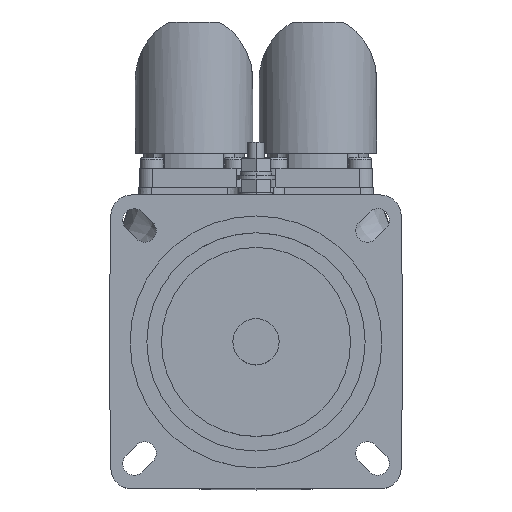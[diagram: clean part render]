
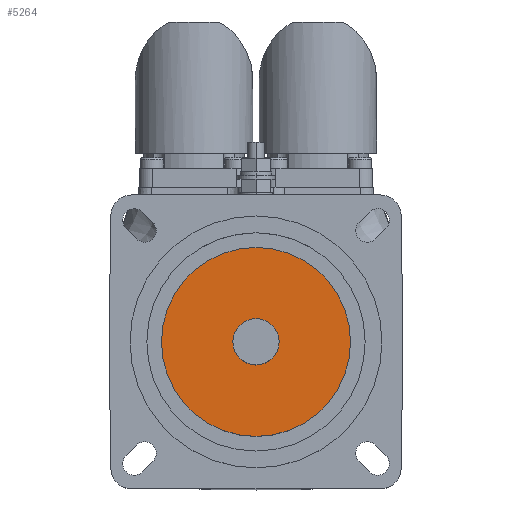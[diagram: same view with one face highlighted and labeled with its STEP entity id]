
A CAD part, top view. The second image highlights one B-rep face of the part: STEP entity #5264.
In plain terms, the highlighted planar face has unit normal (0, 0, 1).
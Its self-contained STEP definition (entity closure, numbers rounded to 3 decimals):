
#2038 = CARTESIAN_POINT ( 'NONE',  ( 0., 0., 7.5 ) ) ;
#2047 = DIRECTION ( 'NONE',  ( 0., 0., 1. ) ) ;
#2048 = DIRECTION ( 'NONE',  ( 1., 0., 0. ) ) ;
#2411 = CARTESIAN_POINT ( 'NONE',  ( 0., 0., 7.5 ) ) ;
#2413 = DIRECTION ( 'NONE',  ( 0., 0., 1. ) ) ;
#2414 = DIRECTION ( 'NONE',  ( 1., 0., 0. ) ) ;
#5216 = ORIENTED_EDGE ( 'NONE', *, *, #10523, .F. ) ;
#5218 = ORIENTED_EDGE ( 'NONE', *, *, #10435, .F. ) ;
#5219 = ORIENTED_EDGE ( 'NONE', *, *, #10439, .T. ) ;
#5221 = ORIENTED_EDGE ( 'NONE', *, *, #10657, .T. ) ;
#5264 = ADVANCED_FACE ( 'NONE', ( #6816, #6812 ), #7670, .T. ) ;
#5966 = AXIS2_PLACEMENT_3D ( 'NONE', #7672, #7669, #7667 ) ;
#6747 = CARTESIAN_POINT ( 'NONE',  ( 0., 0., 7.5 ) ) ;
#6748 = DIRECTION ( 'NONE',  ( 0., 0., 1. ) ) ;
#6749 = DIRECTION ( 'NONE',  ( 1., 0., 0. ) ) ;
#6758 = CARTESIAN_POINT ( 'NONE',  ( 0., 0., 7.5 ) ) ;
#6759 = DIRECTION ( 'NONE',  ( 0., 0., 1. ) ) ;
#6760 = DIRECTION ( 'NONE',  ( 1., 0., 0. ) ) ;
#6812 = FACE_OUTER_BOUND ( 'NONE', #7951, .T. ) ;
#6816 = FACE_BOUND ( 'NONE', #7956, .T. ) ;
#7667 = DIRECTION ( 'NONE',  ( 1., 0., 0. ) ) ;
#7669 = DIRECTION ( 'NONE',  ( 0., 0., 1. ) ) ;
#7670 = PLANE ( 'NONE',  #5966 ) ;
#7672 = CARTESIAN_POINT ( 'NONE',  ( 0., 22.5, 7.5 ) ) ;
#7951 = EDGE_LOOP ( 'NONE', ( #5219, #5221 ) ) ;
#7956 = EDGE_LOOP ( 'NONE', ( #5218, #5216 ) ) ;
#8670 = CARTESIAN_POINT ( 'NONE',  ( 22.5, 0., 7.5 ) ) ;
#8671 = CARTESIAN_POINT ( 'NONE',  ( -22.5, 0., 7.5 ) ) ;
#8684 = CARTESIAN_POINT ( 'NONE',  ( -5.5, 0., 7.5 ) ) ;
#8685 = CARTESIAN_POINT ( 'NONE',  ( 5.5, 0., 7.5 ) ) ;
#9502 = VERTEX_POINT ( 'NONE', #8670 ) ;
#9503 = VERTEX_POINT ( 'NONE', #8671 ) ;
#9516 = VERTEX_POINT ( 'NONE', #8684 ) ;
#9517 = VERTEX_POINT ( 'NONE', #8685 ) ;
#9938 = AXIS2_PLACEMENT_3D ( 'NONE', #6747, #6748, #6749 ) ;
#9942 = AXIS2_PLACEMENT_3D ( 'NONE', #6758, #6759, #6760 ) ;
#9980 = AXIS2_PLACEMENT_3D ( 'NONE', #2038, #2047, #2048 ) ;
#10023 = AXIS2_PLACEMENT_3D ( 'NONE', #2411, #2413, #2414 ) ;
#10435 = EDGE_CURVE ( 'NONE', #9517, #9516, #14045, .T. ) ;
#10439 = EDGE_CURVE ( 'NONE', #9502, #9503, #14051, .T. ) ;
#10523 = EDGE_CURVE ( 'NONE', #9516, #9517, #14178, .T. ) ;
#10657 = EDGE_CURVE ( 'NONE', #9503, #9502, #14685, .T. ) ;
#14045 = CIRCLE ( 'NONE', #9938, 5.5 ) ;
#14051 = CIRCLE ( 'NONE', #9942, 22.5 ) ;
#14178 = CIRCLE ( 'NONE', #9980, 5.5 ) ;
#14685 = CIRCLE ( 'NONE', #10023, 22.5 ) ;
